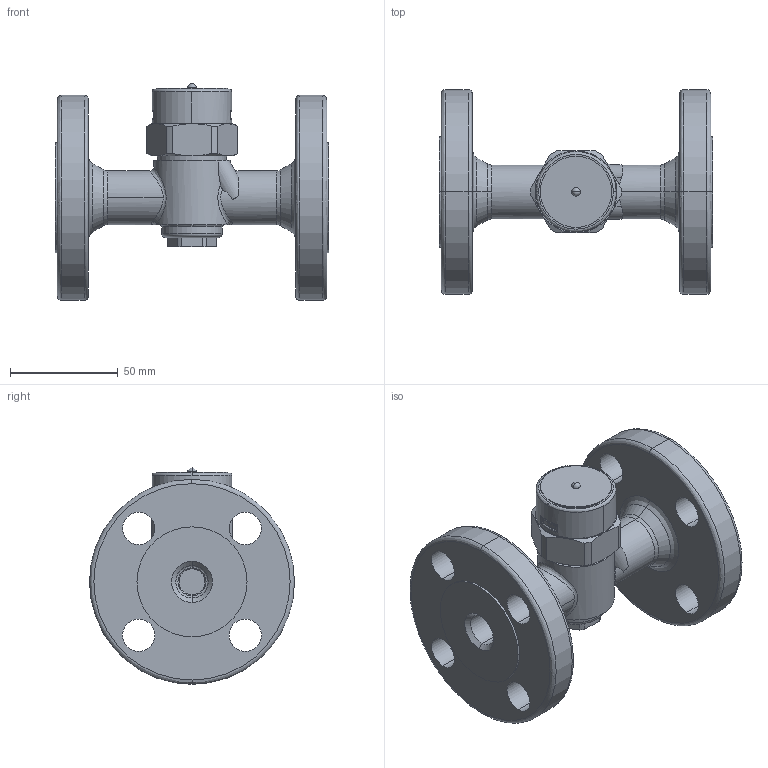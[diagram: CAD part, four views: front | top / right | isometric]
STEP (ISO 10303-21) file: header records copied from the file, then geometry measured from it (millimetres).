
FILE_DESCRIPTION( (''), '2;1');
FILE_NAME ('PC1276.13744.TSD-42F 15A JIS20K_28363.stp','2023-07-25T09:56:21',(''),(''),'spGate 19.8.4 (****-****-****-****)','','');
FILE_SCHEMA (('AUTOMOTIVE_DESIGN'));
Length unit declared in the file: millimetre
Products named in the file (8): Assembly; TSD-42F strainer cap; TSD-42F 銘板鋲; TSD-42F 15A 20K 本体　3D; TSD-42F gasket; TSD-42F 銘板　3D; TSD-42F キャップA 3D; TSD-42F 保温カバー　3D
Assembly tree (7 placements, depth 2):
  Assembly
    TSD-42F strainer cap
    TSD-42F 銘板鋲
    TSD-42F 15A 20K 本体　3D
    TSD-42F gasket
    TSD-42F 銘板　3D
    TSD-42F キャップA 3D
    TSD-42F 保温カバー　3D
Bounding box: 127 x 95 x 100.4 mm (x, y, z)
Volume: 271020.2 mm3; surface area: 71221.5 mm2
Topology: 7 solids, 7 shells, 287 faces, 658 edges, 389 vertices
Faces by surface type: cylinder 118, bspline 115, plane 52, sphere 2
Entity records: 15927 total; most frequent: CARTESIAN_POINT 4825, ORIENTED_EDGE 1272, DIRECTION 1064, COLOUR_RGB 930, PRESENTATION_STYLE_ASSIGNMENT 930, STYLED_ITEM 930, EDGE_CURVE 636, DRAUGHTING_PRE_DEFINED_CURVE_FONT 636
